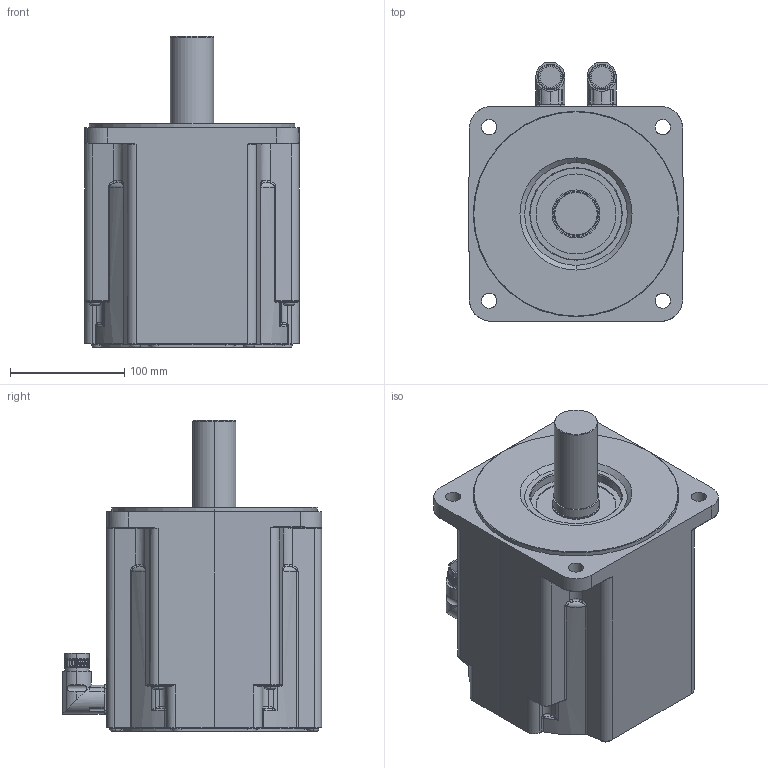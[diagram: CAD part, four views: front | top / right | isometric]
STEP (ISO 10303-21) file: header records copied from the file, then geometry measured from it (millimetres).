
FILE_DESCRIPTION (( 'STEP AP214' ), '1' );
FILE_NAME ('MR7772-Ux-Nxx-G01-A0D-M0-P0.stp', '2009-04-08T13:46:00', ( 'SysAdmin' ), ( 'SolidWorks' ), 'SwSTEP 2.0', 'SolidWorks 2009', '' );
FILE_SCHEMA (( 'AUTOMOTIVE_DESIGN' ));
Length unit declared in the file: millimetre
Products named in the file (1): MR7772-Ux-Nxx-G01-A0D-M0-P0
Bounding box: 188 x 227 x 272.5 mm (x, y, z)
Volume: 6053869.6 mm3; surface area: 228724.4 mm2
Topology: 1 solids, 1 shells, 648 faces, 1584 edges, 944 vertices
Faces by surface type: cylinder 232, bspline 128, plane 124, cone 108, torus 56
Entity records: 27143 total; most frequent: CARTESIAN_POINT 8981, ORIENTED_EDGE 3128, DIRECTION 2852, EDGE_CURVE 1564, AXIS2_PLACEMENT_3D 1207, VERTEX_POINT 944, CIRCLE 686, EDGE_LOOP 682
